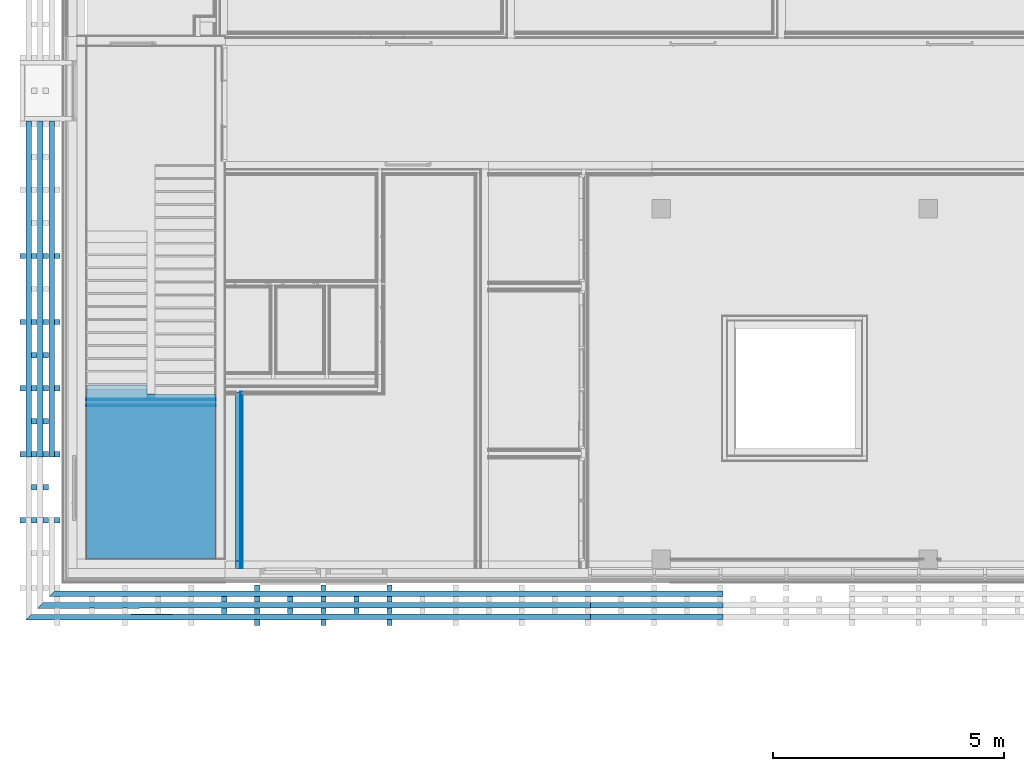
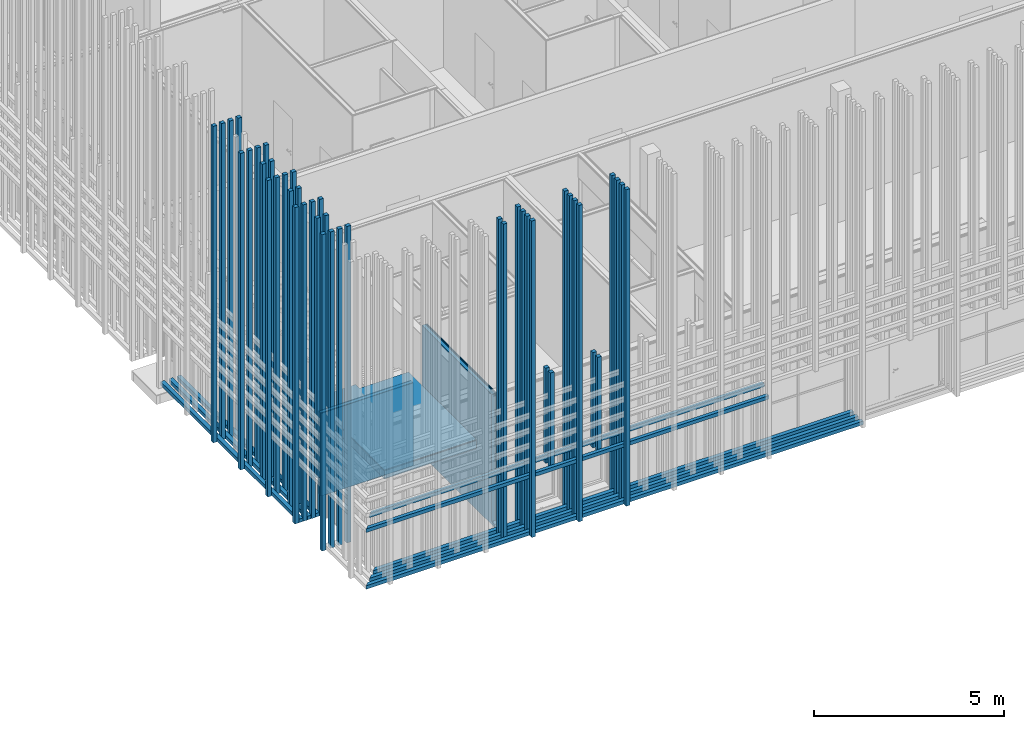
# One storey, part 148 of 260: 17 discrete accessories, 13 building element parts, 3 elements without a shape of their own.
"""IFC2X3 building model written with IfcOpenShell, lengths in millimetres."""

from ifc_helpers import new_model, entity, si_unit, converted_unit, derived_unit, money_unit, direction, frame, origin_with_axes, place, context, subcontext, project, spatial, faceted_brep, material, material_list, type_object, element, aggregate, save


model = new_model("IFC2X3")

# Units and contexts
model_context = context("Model", 3, precision=0.01, world=origin_with_axes(), true_north=direction((0.0, 1.0)))
body_context = subcontext(model_context, "Body", "Model", "MODEL_VIEW")
ifc_project = project(units=[si_unit("LENGTHUNIT", "METRE", prefix="MILLI"), si_unit("AREAUNIT", "SQUARE_METRE"), si_unit("VOLUMEUNIT", "CUBIC_METRE"), converted_unit("PLANEANGLEUNIT", "DEGREE", entity("IfcPlaneAngleMeasure", 0.0174532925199), si_unit("PLANEANGLEUNIT", "RADIAN"), dimensions=[0, 0, 0, 0, 0, 0, 0]), money_unit("EUR"), converted_unit("TIMEUNIT", "Year", entity("IfcTimeMeasure", 31556926.0), si_unit("TIMEUNIT", "SECOND"), dimensions=[0, 0, 1, 0, 0, 0, 0]), si_unit("MASSUNIT", "GRAM", prefix="KILO"), si_unit("THERMODYNAMICTEMPERATUREUNIT", "DEGREE_CELSIUS"), si_unit("LUMINOUSINTENSITYUNIT", "LUMEN"), si_unit("ENERGYUNIT", "JOULE", prefix="MEGA"), derived_unit("THERMALCONDUCTANCEUNIT", [(si_unit("POWERUNIT", "WATT"), 1), (si_unit("LENGTHUNIT", "METRE"), -1), (si_unit("THERMODYNAMICTEMPERATUREUNIT", "KELVIN"), -1)]), derived_unit("SPECIFICHEATCAPACITYUNIT", [(si_unit("ENERGYUNIT", "JOULE"), 1), (si_unit("MASSUNIT", "GRAM", prefix="KILO"), -1), (si_unit("THERMODYNAMICTEMPERATUREUNIT", "KELVIN"), -1)]), derived_unit("MASSDENSITYUNIT", [(si_unit("MASSUNIT", "GRAM", prefix="KILO"), 1), (si_unit("VOLUMEUNIT", "CUBIC_METRE"), -1)])], contexts=[model_context])

# Site, building, storey
site_placement = place(None, origin_with_axes())
site = spatial("IfcSite", under=ifc_project, at=site_placement, Name="Kolde pst 67a", CompositionType="ELEMENT")
building_placement = place(site_placement, origin_with_axes())
building = spatial("IfcBuilding", under=site, at=building_placement, Name="Riigigümnaasium", CompositionType="ELEMENT")
storey_placement = place(building_placement, origin_with_axes())
storey = spatial("IfcBuildingStorey", under=building, at=storey_placement, Name="1. korrus", CompositionType="ELEMENT", Elevation=0.0)

# Discrete accessories
ifc_material_1 = material(Name="_VÄLISVIIMISTLUS - sõrmjätkatud puitprussid 120x115mm, liitekohad vähemärgatavad, Platowood sõrmjätkatud kuusk või samaväärne; eeltöödeldud tuletõkkevõõbaga, tuletundlikkus B-s1, d0, Woodsafe Exterior WFX™ või samaväärne; kinnitused vastavalt EK osale")
ifc_material_list_1 = material_list([ifc_material_1, ifc_material_1, ifc_material_1, ifc_material_1])
discrete_accessory_type_1 = type_object("IfcDiscreteAccessoryType", Name="120 4-ne vertikaalne 870 x 115")
for number, where, z_axis, x_axis in (
    (1, (-310.003213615, 53382.2222774, 280.0), (0.0, 0.0, 1.0), (0.999999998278, -5.86859191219e-05, 0.0)),
    (2, (-310.003213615, 51952.2222774, 280.0), (0.0, 0.0, 1.0), (0.999999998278, -5.86859191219e-05, 0.0)),
    (3, (-310.003213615, 54812.2222773, 280.0), (0.0, 0.0, 1.0), (0.999999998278, -5.86859191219e-05, 0.0)),
    (4, (-310.003213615, 49092.2222774, 280.0), (0.0, 0.0, 1.0), (0.999999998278, -5.86859191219e-05, 0.0)),
    (5, (-310.003213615, 50522.2222774, 280.0), (0.0, 0.0, 1.0), (0.999999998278, -5.86859191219e-05, 0.0)),
    (6, (3927.50220181, 47693.5672375, 280.0), (0.0, 0.0, 1.0), (5.86859191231e-05, 0.999999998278, 0.0)),
    (7, (5357.50365987, 47693.5138352, 280.0), (0.0, 0.0, 1.0), (5.86859191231e-05, 0.999999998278, 0.0)),
    (8, (6787.50219554, 47693.7277058, 280.0), (0.0, 0.0, 1.0), (5.86859191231e-05, 0.999999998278, 0.0)),
):
    element("IfcDiscreteAccessory", number, at=place(storey_placement, frame(where, z_axis=z_axis, x_axis=x_axis)), inside=storey, type_object=discrete_accessory_type_1, material=ifc_material_list_1, Name="Päikesevarjestus", context=body_context, shape_type="Brep", body=[
        faceted_brep([(-133.0, -70.0, 0.0), (-13.0, -70.0, 0.0), (-13.0, -70.0, 10140.0), (-133.0, -70.0, 10140.0), (-133.0, 45.0, 0.0), (-13.0, 45.0, 0.0), (-13.0, 45.0, 10140.0), (-133.0, 45.0, 10140.0)], [[[0, 1, 2, 3]], [[0, 4, 5, 1]], [[1, 5, 6, 2]], [[3, 2, 6, 7]], [[4, 0, 3, 7]], [[5, 4, 7, 6]]]),
        faceted_brep([(-383.0, -70.0, 0.0), (-263.0, -70.0, 0.0), (-263.0, -70.0, 10140.0), (-383.0, -70.0, 10140.0), (-383.0, 45.0, 0.0), (-263.0, 45.0, 0.0), (-263.0, 45.0, 10140.0), (-383.0, 45.0, 10140.0)], [[[0, 1, 2, 3]], [[0, 4, 5, 1]], [[1, 5, 6, 2]], [[3, 2, 6, 7]], [[4, 0, 3, 7]], [[5, 4, 7, 6]]]),
        faceted_brep([(-633.0, -70.0, 0.0), (-513.0, -70.0, 0.0), (-513.0, -70.0, 10140.0), (-633.0, -70.0, 10140.0), (-633.0, 45.0, 0.0), (-513.0, 45.0, 0.0), (-513.0, 45.0, 10140.0), (-633.0, 45.0, 10140.0)], [[[0, 1, 2, 3]], [[0, 4, 5, 1]], [[1, 5, 6, 2]], [[3, 2, 6, 7]], [[4, 0, 3, 7]], [[5, 4, 7, 6]]]),
        faceted_brep([(-883.0, -70.0, 0.0), (-763.0, -70.0, 0.0), (-763.0, -70.0, 10140.0), (-883.0, -70.0, 10140.0), (-883.0, 45.0, 0.0), (-763.0, 45.0, 0.0), (-763.0, 45.0, 10140.0), (-883.0, 45.0, 10140.0)], [[[0, 1, 2, 3]], [[0, 4, 5, 1]], [[1, 5, 6, 2]], [[3, 2, 6, 7]], [[4, 0, 3, 7]], [[5, 4, 7, 6]]]),
    ])
ifc_material_list_2 = material_list([ifc_material_1, ifc_material_1, ifc_material_1])
discrete_accessory_type_2 = type_object("IfcDiscreteAccessoryType", Name="120 1+paiksekaitse 3 tk  620 x 115")
discrete_accessory_1_placement = place(storey_placement, frame((-323.013579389, 47673.7069872, 352.5), z_axis=(0.0, 0.0, 1.0), x_axis=(0.000489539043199, -0.999999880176, 0.0)))
element("IfcDiscreteAccessory", 9, at=discrete_accessory_1_placement, inside=storey, type_object=discrete_accessory_type_2, material=ifc_material_list_2, Name="Päikesevarjestus", context=body_context, shape_type="Brep", body=[
    faceted_brep([(745.0, 1345.10492664, 45.0), (743.688873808, 1345.10564544, 45.0), (743.751919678, 1460.10562815, 45.0), (745.0, 1460.10494393, 45.0), (745.0, 2775.10660027, 45.0), (744.442317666, 2775.106906, 45.0), (744.505363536, 2890.10688872, 45.0), (745.0, 2890.10661755, 45.0), (745.0, 14332.6234855, 45.0), (625.0, 14332.6234855, 45.0), (625.0, -625.308875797, 45.0), (745.0, -745.368179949, 45.0), (745.0, 1345.10492664, -70.0), (743.688873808, 1345.10564544, -70.0), (743.751919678, 1460.10562815, -70.0), (745.0, 1460.10494393, -70.0), (745.0, 2775.10660027, -70.0), (744.442317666, 2775.106906, -70.0), (744.505363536, 2890.10688872, -70.0), (745.0, 2890.10661755, -70.0), (745.0, 14332.6234855, -70.0), (625.0, 14332.6234855, -70.0), (625.0, -625.308875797, -70.0), (745.0, -745.368179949, -70.0)], [[[0, 1, 2, 3, 4, 5, 6, 7, 8, 9, 10, 11]], [[1, 0, 12, 13]], [[2, 1, 13, 14]], [[3, 2, 14, 15]], [[3, 15, 16, 4]], [[5, 4, 16, 17]], [[6, 5, 17, 18]], [[7, 6, 18, 19]], [[7, 19, 20, 8]], [[21, 9, 8, 20]], [[21, 22, 10, 9]], [[22, 23, 11, 10]], [[12, 0, 11, 23]], [[13, 12, 23, 22, 21, 20, 19, 18, 17, 16, 15, 14]]]),
    faceted_brep([(495.0, 1345.2419829, 45.0), (493.688911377, 1345.24270167, 45.0), (493.751957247, 1460.24268439, 45.0), (495.0, 1460.24200018, 45.0), (495.0, 2060.23586613, 45.0), (494.03878182, 2060.23633668, 45.0), (494.09507881, 2175.2363229, 45.0), (495.0, 2175.23587991, 45.0), (495.0, 2775.24365653, 45.0), (494.442355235, 2775.24396224, 45.0), (494.505401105, 2890.24394496, 45.0), (495.0, 2890.24367381, 45.0), (495.0, 3490.23603748, 45.0), (494.738822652, 3490.23616534, 45.0), (494.795119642, 3605.23615156, 45.0), (495.0, 3605.23605126, 45.0), (495.0, 14332.6234855, 45.0), (375.0, 14332.6234855, 45.0), (375.0, -375.185325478, 45.0), (495.0, -495.244629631, 45.0), (495.0, 630.235694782, 45.0), (493.33874162, 630.236508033, 45.0), (493.39503861, 745.236494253, 45.0), (495.0, 745.235708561, 45.0), (495.0, 1345.2419829, -70.0), (493.688911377, 1345.24270167, -70.0), (493.751957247, 1460.24268439, -70.0), (495.0, 1460.24200018, -70.0), (495.0, 2060.23586613, -70.0), (494.03878182, 2060.23633668, -70.0), (494.09507881, 2175.2363229, -70.0), (495.0, 2175.23587991, -70.0), (495.0, 2775.24365653, -70.0), (494.442355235, 2775.24396224, -70.0), (494.505401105, 2890.24394496, -70.0), (495.0, 2890.24367381, -70.0), (495.0, 3490.23603748, -70.0), (494.738822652, 3490.23616534, -70.0), (494.795119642, 3605.23615156, -70.0), (495.0, 3605.23605126, -70.0), (495.0, 14332.6234855, -70.0), (375.0, 14332.6234855, -70.0), (375.0, -375.185325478, -70.0), (495.0, -495.244629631, -70.0), (495.0, 630.235694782, -70.0), (493.33874162, 630.236508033, -70.0), (493.39503861, 745.236494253, -70.0), (495.0, 745.235708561, -70.0)], [[[0, 1, 2, 3, 4, 5, 6, 7, 8, 9, 10, 11, 12, 13, 14, 15, 16, 17, 18, 19, 20, 21, 22, 23]], [[1, 0, 24, 25]], [[2, 1, 25, 26]], [[3, 2, 26, 27]], [[3, 27, 28, 4]], [[5, 4, 28, 29]], [[6, 5, 29, 30]], [[7, 6, 30, 31]], [[32, 8, 7, 31]], [[9, 8, 32, 33]], [[10, 9, 33, 34]], [[11, 10, 34, 35]], [[11, 35, 36, 12]], [[13, 12, 36, 37]], [[14, 13, 37, 38]], [[15, 14, 38, 39]], [[15, 39, 40, 16]], [[41, 17, 16, 40]], [[41, 42, 18, 17]], [[42, 43, 19, 18]], [[44, 20, 19, 43]], [[21, 20, 44, 45]], [[22, 21, 45, 46]], [[23, 22, 46, 47]], [[24, 0, 23, 47]], [[25, 24, 47, 46, 45, 44, 43, 42, 41, 40, 39, 38, 37, 36, 35, 34, 33, 32, 31, 30, 29, 28, 27, 26]]]),
    faceted_brep([(245.0, 1345.37903916, 45.0), (243.688948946, 1345.37975791, 45.0), (243.751994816, 1460.37974063, 45.0), (245.0, 1460.37905644, 45.0), (245.0, 2060.35825091, 45.0), (244.038811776, 2060.35872144, 45.0), (244.095108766, 2175.35870767, 45.0), (245.0, 2175.35826469, 45.0), (245.0, 2775.38071278, 45.0), (244.442392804, 2775.38101848, 45.0), (244.505438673, 2890.3810012, 45.0), (245.0, 2890.38073007, 45.0), (245.0, 3490.35842225, 45.0), (244.738852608, 3490.3585501, 45.0), (244.795149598, 3605.35853632, 45.0), (245.0, 3605.35843603, 45.0), (245.0, 14332.6234855, 45.0), (125.0, 14332.6234855, 45.0), (125.0, -125.061775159, 45.0), (245.0, -245.121079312, 45.0), (245.0, 630.358079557, 45.0), (243.338771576, 630.358892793, 45.0), (243.395068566, 745.358879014, 45.0), (245.0, 745.358093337, 45.0), (245.0, 1345.37903916, -70.0), (243.688948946, 1345.37975791, -70.0), (243.751994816, 1460.37974063, -70.0), (245.0, 1460.37905644, -70.0), (245.0, 2060.35825091, -70.0), (244.038811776, 2060.35872144, -70.0), (244.095108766, 2175.35870767, -70.0), (245.0, 2175.35826469, -70.0), (245.0, 2775.38071278, -70.0), (244.442392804, 2775.38101848, -70.0), (244.505438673, 2890.3810012, -70.0), (245.0, 2890.38073007, -70.0), (245.0, 3490.35842225, -70.0), (244.738852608, 3490.3585501, -70.0), (244.795149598, 3605.35853632, -70.0), (245.0, 3605.35843603, -70.0), (245.0, 14332.6234855, -70.0), (125.0, 14332.6234855, -70.0), (125.0, -125.061775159, -70.0), (245.0, -245.121079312, -70.0), (245.0, 630.358079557, -70.0), (243.338771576, 630.358892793, -70.0), (243.395068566, 745.358879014, -70.0), (245.0, 745.358093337, -70.0)], [[[0, 1, 2, 3, 4, 5, 6, 7, 8, 9, 10, 11, 12, 13, 14, 15, 16, 17, 18, 19, 20, 21, 22, 23]], [[1, 0, 24, 25]], [[2, 1, 25, 26]], [[3, 2, 26, 27]], [[3, 27, 28, 4]], [[5, 4, 28, 29]], [[6, 5, 29, 30]], [[7, 6, 30, 31]], [[32, 8, 7, 31]], [[9, 8, 32, 33]], [[10, 9, 33, 34]], [[11, 10, 34, 35]], [[11, 35, 36, 12]], [[13, 12, 36, 37]], [[14, 13, 37, 38]], [[15, 14, 38, 39]], [[15, 39, 40, 16]], [[41, 17, 16, 40]], [[41, 42, 18, 17]], [[42, 43, 19, 18]], [[44, 20, 19, 43]], [[21, 20, 44, 45]], [[22, 21, 45, 46]], [[23, 22, 46, 47]], [[24, 0, 23, 47]], [[25, 24, 47, 46, 45, 44, 43, 42, 41, 40, 39, 38, 37, 36, 35, 34, 33, 32, 31, 30, 29, 28, 27, 26]]]),
])
discrete_accessory_2_placement = place(storey_placement, frame((-323.007391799, 57721.1129945, 352.5), z_axis=(0.0, 0.0, 1.0), x_axis=(-1.0, 6.30384565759e-07, 0.0)))
element("IfcDiscreteAccessory", 10, at=discrete_accessory_2_placement, inside=storey, type_object=discrete_accessory_type_2, material=ifc_material_list_2, Name="Päikesevarjestus", context=body_context, shape_type="Brep", body=[
    faceted_brep([(625.0, 7269.99303313, 45.0), (625.0, 0.0, 45.0), (745.0, 0.0, 45.0), (745.0, 7269.99303313, 45.0), (625.0, 7269.99303313, -70.0), (625.0, 0.0, -70.0), (745.0, 0.0, -70.0), (745.0, 7269.99303313, -70.0)], [[[0, 1, 2, 3]], [[4, 5, 1, 0]], [[5, 6, 2, 1]], [[3, 2, 6, 7]], [[4, 0, 3, 7]], [[7, 6, 5, 4]]]),
    faceted_brep([(375.0, 7269.99303313, 45.0), (375.0, 0.0, 45.0), (495.0, 0.0, 45.0), (495.0, 7269.99303313, 45.0), (375.0, 7269.99303313, -70.0), (375.0, 0.0, -70.0), (495.0, 0.0, -70.0), (495.0, 7269.99303313, -70.0)], [[[0, 1, 2, 3]], [[4, 5, 1, 0]], [[5, 6, 2, 1]], [[3, 2, 6, 7]], [[4, 0, 3, 7]], [[7, 6, 5, 4]]]),
    faceted_brep([(125.0, 7269.99303313, 45.0), (125.0, 0.0, 45.0), (245.0, 0.0, 45.0), (245.0, 7269.99303313, 45.0), (125.0, 7269.99303313, -70.0), (125.0, 0.0, -70.0), (245.0, 0.0, -70.0), (245.0, 7269.99303313, -70.0)], [[[0, 1, 2, 3]], [[4, 5, 1, 0]], [[5, 6, 2, 1]], [[3, 2, 6, 7]], [[4, 0, 3, 7]], [[7, 6, 5, 4]]]),
])
ifc_material_list_3 = material_list([ifc_material_1, ifc_material_1])
discrete_accessory_type_3 = type_object("IfcDiscreteAccessoryType", Name="1+paiksekaitse 4 tk nihkes 2 370 x 355")
discrete_accessory_3_placement = place(storey_placement, frame((-323.006615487, 47673.7129996, 2100.00014213), z_axis=(0.0, 0.0, 1.0), x_axis=(0.000305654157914, -0.999999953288, 0.0)))
element("IfcDiscreteAccessory", 11, at=discrete_accessory_3_placement, inside=storey, type_object=discrete_accessory_type_3, material=ifc_material_list_3, Name="Päikesevarjestus", context=body_context, shape_type="Brep", body=[
    faceted_brep([(495.0, 1345.32592951, 357.5), (493.447543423, 1345.32649513, 357.364177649), (493.489442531, 1460.32648749, 357.367843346), (495.0, 1460.32593714, 357.5), (495.0, 2060.31977462, 357.5), (493.665937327, 2060.32018238, 357.38328464), (493.701087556, 2175.32017701, 357.386359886), (495.0, 2175.31977999, 357.5), (495.0, 2775.32748315, 357.5), (493.93803163, 2775.32787006, 357.407089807), (493.979930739, 2890.32786243, 357.410755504), (495.0, 2890.32749078, 357.5), (495.0, 3490.31984142, 357.5), (494.103022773, 3490.32011559, 357.421524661), (494.138173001, 3605.32011021, 357.424599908), (495.0, 3605.31984679, 357.5), (495.0, 4205.32757559, 357.5), (494.428519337, 4205.32778381, 357.450001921), (494.470418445, 4320.32777618, 357.453667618), (495.0, 4320.32758323, 357.5), (495.0, 4920.31990822, 357.5), (494.540108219, 4920.32004879, 357.459764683), (494.575258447, 5035.32004342, 357.462839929), (495.0, 5035.31991359, 357.5), (495.0, 5635.32912924, 357.5), (494.919007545, 5635.32915874, 357.492914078), (494.960906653, 5750.32915111, 357.496579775), (495.0, 5750.32913687, 357.5), (495.0, 6350.31997502, 357.5), (494.977193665, 6350.31998199, 357.498004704), (495.0, 6424.9348156, 357.5), (495.0, 11472.7488069, 357.5), (375.0, 11472.7488069, 347.001360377), (375.0, -375.114708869, 347.001360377), (495.0, -495.151415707, 357.5), (495.0, 630.319707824, 357.5), (493.228852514, 630.320249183, 357.345044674), (493.264002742, 745.320243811, 357.34811992), (495.0, 745.319713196, 357.5), (495.0, 1345.32592951, 242.5), (493.447543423, 1345.32649513, 242.5), (493.489442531, 1460.32648749, 242.5), (495.0, 1460.32593714, 242.5), (495.0, 2060.31977462, 242.5), (493.665937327, 2060.32018238, 242.5), (493.701087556, 2175.32017701, 242.5), (495.0, 2175.31977999, 242.5), (495.0, 2775.32748315, 242.5), (493.93803163, 2775.32787006, 242.5), (493.979930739, 2890.32786243, 242.5), (495.0, 2890.32749078, 242.5), (495.0, 3490.31984142, 242.5), (494.103022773, 3490.32011559, 242.5), (494.138173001, 3605.32011021, 242.5), (495.0, 3605.31984679, 242.5), (495.0, 4205.32757559, 242.5), (494.428519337, 4205.32778381, 242.5), (494.470418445, 4320.32777618, 242.5), (495.0, 4320.32758323, 242.5), (495.0, 4920.31990822, 242.5), (494.540108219, 4920.32004879, 242.5), (494.575258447, 5035.32004342, 242.5), (495.0, 5035.31991359, 242.5), (495.0, 5635.32912924, 242.5), (494.919007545, 5635.32915874, 242.5), (494.960906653, 5750.32915111, 242.5), (495.0, 5750.32913687, 242.5), (495.0, 6350.31997502, 242.5), (494.977193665, 6350.31998199, 242.5), (495.0, 6424.9348156, 242.5), (495.0, 11472.7488069, 242.5), (375.0, 11472.7488069, 242.5), (375.0, -375.114708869, 242.5), (495.0, -495.151415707, 242.5), (495.0, 630.319707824, 242.5), (493.228852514, 630.320249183, 242.5), (493.264002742, 745.320243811, 242.5), (495.0, 745.319713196, 242.5)], [[[0, 1, 2, 3, 4, 5, 6, 7, 8, 9, 10, 11, 12, 13, 14, 15, 16, 17, 18, 19, 20, 21, 22, 23, 24, 25, 26, 27, 28, 29, 30, 31, 32, 33, 34, 35, 36, 37, 38]], [[1, 0, 39, 40]], [[2, 1, 40, 41]], [[3, 2, 41, 42]], [[3, 42, 43, 4]], [[5, 4, 43, 44]], [[6, 5, 44, 45]], [[7, 6, 45, 46]], [[47, 8, 7, 46]], [[9, 8, 47, 48]], [[10, 9, 48, 49]], [[11, 10, 49, 50]], [[11, 50, 51, 12]], [[13, 12, 51, 52]], [[14, 13, 52, 53]], [[15, 14, 53, 54]], [[55, 16, 15, 54]], [[17, 16, 55, 56]], [[18, 17, 56, 57]], [[19, 18, 57, 58]], [[19, 58, 59, 20]], [[21, 20, 59, 60]], [[22, 21, 60, 61]], [[23, 22, 61, 62]], [[63, 24, 23, 62]], [[25, 24, 63, 64]], [[26, 25, 64, 65]], [[27, 26, 65, 66]], [[27, 66, 67, 28]], [[29, 28, 67, 68]], [[69, 30, 29, 68]], [[30, 69, 70, 31]], [[71, 32, 31, 70]], [[71, 72, 33, 32]], [[72, 73, 34, 33]], [[74, 35, 34, 73]], [[36, 35, 74, 75]], [[37, 36, 75, 76]], [[38, 37, 76, 77]], [[39, 0, 38, 77]], [[40, 39, 77, 76, 75, 74, 73, 72, 71, 70, 69, 68, 67, 66, 65, 64, 63, 62, 61, 60, 59, 58, 57, 56, 55, 54, 53, 52, 51, 50, 49, 48, 47, 46, 45, 44, 43, 42, 41]]]),
    faceted_brep([(745.0, 1345.23484448, 117.5), (743.44752683, 1345.23541011, 117.364176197), (743.489425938, 1460.23540248, 117.367841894), (745.0, 1460.23485211, 117.5), (745.0, 2775.23639812, 117.5), (743.938015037, 2775.23678504, 117.407088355), (743.979914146, 2890.23677741, 117.410754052), (745.0, 2890.23640575, 117.5), (745.0, 4205.23649057, 117.5), (744.428502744, 4205.23669879, 117.450000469), (744.470401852, 4320.23669116, 117.453666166), (745.0, 4320.2364982, 117.5), (745.0, 5635.23804421, 117.5), (744.918990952, 5635.23807373, 117.492912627), (744.96089006, 5750.23806609, 117.496578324), (745.0, 5750.23805184, 117.5), (745.0, 11472.7488069, 117.5), (625.0, 11472.7488069, 107.001360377), (625.0, -625.191181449, 107.001360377), (745.0, -745.227888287, 117.5), (745.0, 1345.23484448, 2.5), (743.44752683, 1345.23541011, 2.5), (743.489425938, 1460.23540248, 2.5), (745.0, 1460.23485211, 2.5), (745.0, 2775.23639812, 2.5), (743.938015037, 2775.23678504, 2.5), (743.979914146, 2890.23677741, 2.5), (745.0, 2890.23640575, 2.5), (745.0, 4205.23649057, 2.5), (744.428502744, 4205.23669879, 2.5), (744.470401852, 4320.23669116, 2.5), (745.0, 4320.2364982, 2.5), (745.0, 5635.23804421, 2.5), (744.918990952, 5635.23807373, 2.5), (744.96089006, 5750.23806609, 2.5), (745.0, 5750.23805184, 2.5), (745.0, 11472.7488069, 2.5), (625.0, 11472.7488069, 2.5), (625.0, -625.191181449, 2.5), (745.0, -745.227888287, 2.5)], [[[0, 1, 2, 3, 4, 5, 6, 7, 8, 9, 10, 11, 12, 13, 14, 15, 16, 17, 18, 19]], [[1, 0, 20, 21]], [[2, 1, 21, 22]], [[3, 2, 22, 23]], [[3, 23, 24, 4]], [[5, 4, 24, 25]], [[6, 5, 25, 26]], [[7, 6, 26, 27]], [[7, 27, 28, 8]], [[9, 8, 28, 29]], [[10, 9, 29, 30]], [[11, 10, 30, 31]], [[11, 31, 32, 12]], [[13, 12, 32, 33]], [[14, 13, 33, 34]], [[15, 14, 34, 35]], [[15, 35, 36, 16]], [[37, 17, 16, 36]], [[37, 38, 18, 17]], [[38, 39, 19, 18]], [[20, 0, 19, 39]], [[21, 20, 39, 38, 37, 36, 35, 34, 33, 32, 31, 30, 29, 28, 27, 26, 25, 24, 23, 22]]]),
])
discrete_accessory_type_4 = type_object("IfcDiscreteAccessoryType", Name="1+paiksekaitse 3 370 x 115")
discrete_accessory_4_placement = place(storey_placement, frame((3284.9643617, 46713.6768307, 280.0), z_axis=(0.0, 0.0, 1.0), x_axis=(0.0, 1.0, 0.0)))
element("IfcDiscreteAccessory", 12, at=discrete_accessory_4_placement, inside=storey, type_object=discrete_accessory_type_4, material=ifc_material_list_3, Name="Päikesevarjestus", context=body_context, shape_type="Brep", body=[
    faceted_brep([(467.0, 117.5, 0.0), (347.0, 117.5, 0.0), (347.0, 117.5, 10140.0), (467.0, 117.5, 10140.0), (467.0, 2.5, 0.0), (347.0, 2.5, 0.0), (347.0, 2.5, 10140.0), (467.0, 2.5, 10140.0)], [[[0, 1, 2, 3]], [[0, 4, 5, 1]], [[1, 5, 6, 2]], [[3, 2, 6, 7]], [[4, 0, 3, 7]], [[5, 4, 7, 6]]]),
    faceted_brep([(717.0, 117.5, 0.0), (597.0, 117.5, 0.0), (597.0, 117.5, 10140.0), (717.0, 117.5, 10140.0), (717.0, 2.5, 0.0), (597.0, 2.5, 0.0), (597.0, 2.5, 10140.0), (717.0, 2.5, 10140.0)], [[[0, 1, 2, 3]], [[0, 4, 5, 1]], [[1, 5, 6, 2]], [[3, 2, 6, 7]], [[4, 0, 3, 7]], [[5, 4, 7, 6]]]),
])
for number, where, z_axis, x_axis in (
    (13, (4714.9643617, 46713.6768307, 2100.00014213), (0.0, 0.0, 1.0), (0.0, 1.0, 0.0)),
    (14, (6144.9643617, 46713.6768307, 2100.00014213), (0.0, 0.0, 1.0), (0.0, 1.0, 0.0)),
):
    element("IfcDiscreteAccessory", number, at=place(storey_placement, frame(where, z_axis=z_axis, x_axis=x_axis)), inside=storey, type_object=discrete_accessory_type_4, material=ifc_material_list_3, Name="Päikesevarjestus", context=body_context, shape_type="Brep", body=[
        faceted_brep([(467.0, 117.5, 0.0), (347.0, 117.5, 0.0), (347.0, 117.5, 3050.0), (467.0, 117.5, 3050.0), (467.0, 2.5, 0.0), (347.0, 2.5, 0.0), (347.0, 2.5, 3050.0), (467.0, 2.5, 3050.0)], [[[0, 1, 2, 3]], [[0, 4, 5, 1]], [[1, 5, 6, 2]], [[3, 2, 6, 7]], [[4, 0, 3, 7]], [[5, 4, 7, 6]]]),
        faceted_brep([(717.0, 117.5, 0.0), (597.0, 117.5, 0.0), (597.0, 117.5, 3050.0), (717.0, 117.5, 3050.0), (717.0, 2.5, 0.0), (597.0, 2.5, 0.0), (597.0, 2.5, 3050.0), (717.0, 2.5, 3050.0)], [[[0, 1, 2, 3]], [[0, 4, 5, 1]], [[1, 5, 6, 2]], [[3, 2, 6, 7]], [[4, 0, 3, 7]], [[5, 4, 7, 6]]]),
    ])
for number, where, z_axis, x_axis in (
    (15, (-1290.00746728, 52594.7586626, 280.0), (0.0, 0.0, 1.0), (1.0, 0.0, 0.0)),
    (16, (-1290.00746728, 51164.7586626, 280.0), (0.0, 0.0, 1.0), (1.0, 0.0, 0.0)),
):
    element("IfcDiscreteAccessory", number, at=place(storey_placement, frame(where, z_axis=z_axis, x_axis=x_axis)), inside=storey, type_object=discrete_accessory_type_4, material=ifc_material_list_3, Name="Päikesevarjestus", context=body_context, shape_type="Brep", body=[
        faceted_brep([(467.0, 117.5, 0.0), (347.0, 117.5, 0.0), (347.0, 117.5, 10140.0), (467.0, 117.5, 10140.0), (467.0, 2.5, 0.0), (347.0, 2.5, 0.0), (347.0, 2.5, 10140.0), (467.0, 2.5, 10140.0)], [[[0, 1, 2, 3]], [[0, 4, 5, 1]], [[1, 5, 6, 2]], [[3, 2, 6, 7]], [[4, 0, 3, 7]], [[5, 4, 7, 6]]]),
        faceted_brep([(717.0, 117.5, 0.0), (597.0, 117.5, 0.0), (597.0, 117.5, 10140.0), (717.0, 117.5, 10140.0), (717.0, 2.5, 0.0), (597.0, 2.5, 0.0), (597.0, 2.5, 10140.0), (717.0, 2.5, 10140.0)], [[[0, 1, 2, 3]], [[0, 4, 5, 1]], [[1, 5, 6, 2]], [[3, 2, 6, 7]], [[4, 0, 3, 7]], [[5, 4, 7, 6]]]),
    ])
discrete_accessory_5_placement = place(storey_placement, frame((-1290.00746728, 49734.7586626, 2100.00015619), z_axis=(0.0, 0.0, 1.0), x_axis=(1.0, 0.0, 0.0)))
element("IfcDiscreteAccessory", 17, at=discrete_accessory_5_placement, inside=storey, type_object=discrete_accessory_type_4, material=ifc_material_list_3, Name="Päikesevarjestus", context=body_context, shape_type="Brep", body=[
    faceted_brep([(467.0, 117.5, 0.0), (347.0, 117.5, 0.0), (347.0, 117.5, 8319.99984381), (467.0, 117.5, 8319.99984381), (467.0, 2.5, 0.0), (347.0, 2.5, 0.0), (347.0, 2.5, 8319.99984381), (467.0, 2.5, 8319.99984381)], [[[0, 1, 2, 3]], [[0, 4, 5, 1]], [[1, 5, 6, 2]], [[3, 2, 6, 7]], [[4, 0, 3, 7]], [[5, 4, 7, 6]]]),
    faceted_brep([(717.0, 117.5, 0.0), (597.0, 117.5, 0.0), (597.0, 117.5, 8319.99984381), (717.0, 117.5, 8319.99984381), (717.0, 2.5, 0.0), (597.0, 2.5, 0.0), (597.0, 2.5, 8319.99984381), (717.0, 2.5, 8319.99984381)], [[[0, 1, 2, 3]], [[0, 4, 5, 1]], [[1, 5, 6, 2]], [[3, 2, 6, 7]], [[4, 0, 3, 7]], [[5, 4, 7, 6]]]),
])

# Wall, building element parts
wall_type_1 = type_object("IfcWallType", Name="SS-MK-10/3_TTS sein viimistluseta 160", PredefinedType="NOTDEFINED")
wall_1_placement = place(storey_placement, frame((3039.94039842, 51710.1094488, 0.0), z_axis=(0.0, 0.0, 1.0), x_axis=(-1.0, 0.0, 0.0)))
wall_1 = element("IfcWall", 18, at=wall_1_placement, inside=storey, type_object=wall_type_1, Name="Sisesein")
ifc_material_2 = material(Name="_PLAATMATERJAL - tuletõkkekipsplaat, Knauf Red GKF või samaväärne")
building_element_part_1_placement = place(wall_1_placement, origin_with_axes())
building_element_part_1 = element("IfcBuildingElementPart", 19, at=building_element_part_1_placement, material=ifc_material_2, Name="_PLAATMATERJAL - tuletõkkekipsplaat, Knauf Red GKF või samaväärne", context=body_context, shape_type="Brep", body=[
    faceted_brep([(2799.88415135, 160.0, 0.0), (2799.88415135, 145.0, 0.0), (0.0, 145.0, 0.0), (0.0, 160.0, 0.0), (2799.88415135, 160.0, 2655.17241379), (2799.88415135, 145.0, 2655.17241379), (0.0, 145.0, 2655.17241379), (0.0, 160.0, 2655.17241379)], [[[0, 1, 2, 3]], [[0, 4, 5, 1]], [[1, 5, 6, 2]], [[3, 2, 6, 7]], [[4, 0, 3, 7]], [[5, 4, 7, 6]]]),
])
building_element_part_2_placement = place(wall_1_placement, origin_with_axes())
building_element_part_2 = element("IfcBuildingElementPart", 20, at=building_element_part_2_placement, material=ifc_material_2, Name="_PLAATMATERJAL - tuletõkkekipsplaat, Knauf Red GKF või samaväärne", context=body_context, shape_type="Brep", body=[
    faceted_brep([(2799.88415135, 145.0, 0.0), (2799.88415135, 130.0, 0.0), (0.0, 130.0, 0.0), (0.0, 145.0, 0.0), (2799.88415135, 145.0, 2655.17241379), (2799.88415135, 130.0, 2655.17241379), (0.0, 130.0, 2655.17241379), (0.0, 145.0, 2655.17241379)], [[[0, 1, 2, 3]], [[0, 4, 5, 1]], [[1, 5, 6, 2]], [[3, 2, 6, 7]], [[4, 0, 3, 7]], [[5, 4, 7, 6]]]),
])
ifc_material_3 = material(Name="_KARKASS - metallkarkass CW 100/50/06 ja UW 100/40/06, samm 600, vahel mineraalvill, helineeldetegur αw = 1.0,  ISOVER ACOUSTIC 100mm või samaväärne")
building_element_part_3_placement = place(wall_1_placement, origin_with_axes())
building_element_part_3 = element("IfcBuildingElementPart", 21, at=building_element_part_3_placement, material=ifc_material_3, Name="_KARKASS - metallkarkass CW 100/50/06 ja UW 100/40/06, samm 600, vahel mineraalvill, helineeldetegur αw = 1.0,  ISOVER ACOUSTIC 100mm või samaväärne", context=body_context, shape_type="Brep", body=[
    faceted_brep([(2799.88415135, 130.0, 0.0), (2799.88415135, 30.0, 0.0), (0.0, 30.0, 0.0), (0.0, 130.0, 0.0), (2799.88415135, 130.0, 2655.17241379), (2799.88415135, 30.0, 2655.17241379), (0.0, 30.0, 2655.17241379), (0.0, 130.0, 2655.17241379)], [[[0, 1, 2, 3]], [[0, 4, 5, 1]], [[1, 5, 6, 2]], [[3, 2, 6, 7]], [[4, 0, 3, 7]], [[5, 4, 7, 6]]]),
])
building_element_part_4_placement = place(wall_1_placement, origin_with_axes())
building_element_part_4 = element("IfcBuildingElementPart", 22, at=building_element_part_4_placement, material=ifc_material_2, Name="_PLAATMATERJAL - tuletõkkekipsplaat, Knauf Red GKF või samaväärne", context=body_context, shape_type="Brep", body=[
    faceted_brep([(2799.88415135, 30.0, 0.0), (2799.88415135, 15.0, 0.0), (0.0, 15.0, 0.0), (0.0, 30.0, 0.0), (2799.88415135, 30.0, 2655.17241379), (2799.88415135, 15.0, 2655.17241379), (0.0, 15.0, 2655.17241379), (0.0, 30.0, 2655.17241379)], [[[0, 1, 2, 3]], [[0, 4, 5, 1]], [[1, 5, 6, 2]], [[3, 2, 6, 7]], [[4, 0, 3, 7]], [[5, 4, 7, 6]]]),
])
building_element_part_5_placement = place(wall_1_placement, origin_with_axes())
building_element_part_5 = element("IfcBuildingElementPart", 23, at=building_element_part_5_placement, material=ifc_material_2, Name="_PLAATMATERJAL - tuletõkkekipsplaat, Knauf Red GKF või samaväärne", context=body_context, shape_type="Brep", body=[
    faceted_brep([(2799.88415135, 15.0, 0.0), (2799.88415135, 0.0, 0.0), (0.0, 0.0, 0.0), (0.0, 15.0, 0.0), (2799.88415135, 15.0, 2655.17241379), (2799.88415135, 0.0, 2655.17241379), (0.0, 0.0, 2655.17241379), (0.0, 15.0, 2655.17241379)], [[[0, 1, 2, 3]], [[0, 4, 5, 1]], [[1, 5, 6, 2]], [[3, 2, 6, 7]], [[4, 0, 3, 7]], [[5, 4, 7, 6]]]),
])
aggregate(wall_1, [building_element_part_1, building_element_part_2, building_element_part_3, building_element_part_4, building_element_part_5])

wall_type_2 = type_object("IfcWallType", Name="SS-MK-10/4_šahti sein+dold  160", PredefinedType="NOTDEFINED")
wall_2_placement = place(storey_placement, frame((3629.94042366, 48039.9808308, 0.0), z_axis=(0.0, 0.0, 1.0), x_axis=(0.0, 1.0, 0.0)))
wall_2 = element("IfcWall", 24, at=wall_2_placement, inside=storey, type_object=wall_type_2, Name="Varisein")
building_element_part_6_placement = place(wall_2_placement, origin_with_axes())
building_element_part_6 = element("IfcBuildingElementPart", 25, at=building_element_part_6_placement, material=ifc_material_3, Name="_KARKASS - metallkarkass CW 100/50/06 ja UW 100/40/06, samm 600, vahel mineraalvill, helineeldetegur αw = 1.0,  ISOVER ACOUSTIC 100mm või samaväärne", context=body_context, shape_type="Brep", body=[
    faceted_brep([(3820.0, 160.0, 4170.0), (3820.0, 60.0, 4170.0), (3820.0, 60.0, 0.0), (3820.0, 160.0, 0.0), (160.0, 60.0, 4170.0), (160.0, 160.0, 4170.0), (160.0, 60.0, 100.0), (0.0, 60.0, 100.0), (0.0, 60.0, 0.0), (0.0, 160.0, 0.0), (0.0, 160.0, 100.0), (160.0, 160.0, 100.0)], [[[0, 1, 2, 3]], [[4, 1, 0, 5]], [[1, 4, 6, 7, 8, 2]], [[3, 2, 8, 9]], [[5, 0, 3, 9, 10, 11]], [[4, 5, 11, 6]], [[10, 7, 6, 11]], [[8, 7, 10, 9]]]),
])
building_element_part_7_placement = place(wall_2_placement, origin_with_axes())
building_element_part_7 = element("IfcBuildingElementPart", 26, at=building_element_part_7_placement, material=ifc_material_2, Name="_PLAATMATERJAL - tuletõkkekipsplaat, Knauf Red GKF või samaväärne", context=body_context, shape_type="Brep", body=[
    faceted_brep([(3820.0, 60.0, 4170.0), (3820.0, 45.0, 4170.0), (3820.0, 45.0, 0.0), (3820.0, 60.0, 0.0), (160.0, 45.0, 4170.0), (160.0, 60.0, 4170.0), (160.0, 45.0, 100.0), (0.0, 45.0, 100.0), (0.0, 45.0, 0.0), (0.0, 60.0, 0.0), (0.0, 60.0, 100.0), (160.0, 60.0, 100.0)], [[[0, 1, 2, 3]], [[4, 1, 0, 5]], [[1, 4, 6, 7, 8, 2]], [[3, 2, 8, 9]], [[5, 0, 3, 9, 10, 11]], [[4, 5, 11, 6]], [[10, 7, 6, 11]], [[8, 7, 10, 9]]]),
])
building_element_part_8_placement = place(wall_2_placement, origin_with_axes())
building_element_part_8 = element("IfcBuildingElementPart", 27, at=building_element_part_8_placement, material=ifc_material_2, Name="_PLAATMATERJAL - tuletõkkekipsplaat, Knauf Red GKF või samaväärne", context=body_context, shape_type="Brep", body=[
    faceted_brep([(3820.0, 45.0, 4170.0), (3820.0, 30.0, 4170.0), (3820.0, 30.0, 0.0), (3820.0, 45.0, 0.0), (160.0, 30.0, 4170.0), (160.0, 45.0, 4170.0), (160.0, 30.0, 100.0), (0.0, 30.0, 100.0), (0.0, 30.0, 0.0), (0.0, 45.0, 0.0), (0.0, 45.0, 100.0), (160.0, 45.0, 100.0)], [[[0, 1, 2, 3]], [[4, 1, 0, 5]], [[1, 4, 6, 7, 8, 2]], [[3, 2, 8, 9]], [[5, 0, 3, 9, 10, 11]], [[4, 5, 11, 6]], [[10, 7, 6, 11]], [[8, 7, 10, 9]]]),
])
ifc_material_4 = material(Name="_KARKASS - eriprofiilkinnitus vastavalt sisemisele plaatviimistlusele")
building_element_part_9_placement = place(wall_2_placement, origin_with_axes())
building_element_part_9 = element("IfcBuildingElementPart", 28, at=building_element_part_9_placement, material=ifc_material_4, Name="_KARKASS - eriprofiilkinnitus vastavalt sisemisele plaatviimistlusele", context=body_context, shape_type="Brep", body=[
    faceted_brep([(3820.0, 30.0, 4170.0), (3820.0, 20.0, 4170.0), (3820.0, 20.0, 0.0), (3820.0, 30.0, 0.0), (160.0, 20.0, 4170.0), (160.0, 30.0, 4170.0), (160.0, 20.0, 100.0), (0.0, 20.0, 100.0), (0.0, 20.0, 0.0), (0.0, 30.0, 0.0), (0.0, 30.0, 100.0), (160.0, 30.0, 100.0)], [[[0, 1, 2, 3]], [[4, 1, 0, 5]], [[1, 4, 6, 7, 8, 2]], [[3, 2, 8, 9]], [[5, 0, 3, 9, 10, 11]], [[4, 5, 11, 6]], [[10, 7, 6, 11]], [[8, 7, 10, 9]]]),
])
ifc_material_5 = material(Name="_VIIMISTLUSKIHT - Dold plaat vastavalt SA osale")
building_element_part_10_placement = place(wall_2_placement, origin_with_axes())
building_element_part_10 = element("IfcBuildingElementPart", 29, at=building_element_part_10_placement, material=ifc_material_5, Name="_VIIMISTLUSKIHT - Dold plaat vastavalt SA osale", context=body_context, shape_type="Brep", body=[
    faceted_brep([(3820.0, 20.0, 4170.0), (3820.0, 0.0, 4170.0), (3820.0, 0.0, 0.0), (3820.0, 20.0, 0.0), (160.0, 0.0, 4170.0), (160.0, 20.0, 4170.0), (160.0, 0.0, 100.0), (0.0, 0.0, 100.0), (0.0, 0.0, 0.0), (0.0, 20.0, 0.0), (0.0, 20.0, 100.0), (160.0, 20.0, 100.0)], [[[0, 1, 2, 3]], [[4, 1, 0, 5]], [[1, 4, 6, 7, 8, 2]], [[3, 2, 8, 9]], [[5, 0, 3, 9, 10, 11]], [[4, 5, 11, 6]], [[10, 7, 6, 11]], [[8, 7, 10, 9]]]),
])
aggregate(wall_2, [building_element_part_6, building_element_part_7, building_element_part_8, building_element_part_9, building_element_part_10])

# Slab, building element parts
slab_type = type_object("IfcSlabType", Name="VL-RB-25/1_+puitkilp trepikodades 290", PredefinedType="NOTDEFINED")
slab_placement = place(storey_placement, frame((240.056246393, 51731.3772168, 2855.0), z_axis=(0.0, 0.0, 1.0), x_axis=(1.0, 0.0, 0.0)))
slab = element("IfcSlab", 30, at=slab_placement, inside=storey, type_object=slab_type, Name="TR4 made", PredefinedType="NOTDEFINED")
ifc_material_6 = material(Name="_VIIMISTLUSKIHT - viimistlus vastavalt SA osale")
building_element_part_11_placement = place(slab_placement, origin_with_axes())
building_element_part_11 = element("IfcBuildingElementPart", 31, at=building_element_part_11_placement, material=ifc_material_6, Name="_VIIMISTLUSKIHT - viimistlus vastavalt SA osale", context=body_context, shape_type="Brep", body=[
    faceted_brep([(1310.00012441, 278.769176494, 0.0), (0.0, 278.769176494, 0.0), (0.000112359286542, -3491.37926894, 0.0), (2799.88415203, -3491.37926894, 0.0), (2799.88415203, 78.3393446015, 0.0), (1310.00012441, 78.3393446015, 0.0), (-4.0294878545e-08, 267.850069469, -30.0), (1310.00012437, 267.850069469, -30.0), (0.000112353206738, -3491.37926898, -30.0), (2799.88415205, -3491.37926898, -30.0), (2799.88415205, 78.3393446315, -30.0), (1310.00012437, 78.3393446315, -30.0)], [[[0, 1, 2, 3, 4, 5]], [[6, 1, 0, 7]], [[2, 1, 6, 8]], [[9, 3, 2, 8]], [[10, 4, 3, 9]], [[11, 5, 4, 10]], [[7, 0, 5, 11]], [[9, 8, 6, 7, 11, 10]]]),
])
ifc_material_7 = material(Name="_KANDETARIND - monteeritav raudbetoon vastavalt EK osale")
building_element_part_12_placement = place(slab_placement, origin_with_axes())
building_element_part_12 = element("IfcBuildingElementPart", 32, at=building_element_part_12_placement, material=ifc_material_7, Name="_KANDETARIND - monteeritav raudbetoon vastavalt EK osale", context=body_context, shape_type="Brep", body=[
    faceted_brep([(1310.00011189, 78.3393448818, -280.0), (1310.00011189, 78.3393446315, -30.0), (2799.88415205, 78.3393446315, -30.0), (2799.8841522, 78.3393448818, -280.0), (1310.00011189, -141.230823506, -30.0), (1310.00011189, 8.76917649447, -280.0), (1310.00011189, 8.76917649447, -150.0), (1310.00011189, -141.230823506, -150.0), (10.0001118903, -141.230823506, -30.0), (10.0001118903, 267.850069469, -30.0), (-4.0294878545e-08, 267.850069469, -30.0), (0.000112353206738, -3491.37926898, -30.0), (2799.88415205, -3491.37926898, -30.0), (2799.8841522, -3491.37926932, -280.0), (0.00011230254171, -3491.37926932, -280.0), (-3.76084718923e-07, 176.857510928, -280.0), (10.0001118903, 176.857510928, -280.0), (10.0001118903, 8.76917649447, -280.0), (10.0001118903, 8.76917649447, -150.0), (10.0001118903, -141.230823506, -150.0)], [[[0, 1, 2, 3]], [[4, 1, 0, 5, 6, 7]], [[8, 9, 10, 11, 12, 2, 1, 4]], [[3, 2, 12, 13]], [[5, 0, 3, 13, 14, 15, 16, 17]], [[5, 17, 18, 6]], [[6, 18, 19, 7]], [[8, 4, 7, 19]], [[16, 9, 8, 19, 18, 17]], [[9, 16, 15, 10]], [[14, 11, 10, 15]], [[13, 12, 11, 14]]]),
])
building_element_part_13_placement = place(slab_placement, origin_with_axes())
building_element_part_13 = element("IfcBuildingElementPart", 33, at=building_element_part_13_placement, material=ifc_material_6, Name="_VIIMISTLUSKIHT - viimistlus vastavalt SA osale", context=body_context, shape_type="Brep", body=[
    faceted_brep([(-3.89516419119e-07, 173.217808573, -290.000000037), (-3.76084718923e-07, 176.857510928, -280.0), (1310.00012401, 176.857510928, -280.0), (1310.000124, 173.217808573, -290.000000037), (0.000112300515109, -3491.37926933, -290.000000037), (0.00011230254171, -3491.37926932, -280.0), (2799.8841522, -3491.37926932, -280.0), (2799.8841522, 78.3393448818, -280.0), (1310.00012401, 78.3393448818, -280.0), (1310.000124, 78.3393448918, -290.000000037), (2799.88415221, -3491.37926933, -290.000000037), (2799.88415221, 78.3393448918, -290.000000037)], [[[0, 1, 2, 3]], [[4, 5, 1, 0]], [[2, 1, 5, 6, 7, 8]], [[3, 2, 8, 9]], [[10, 4, 0, 3, 9, 11]], [[10, 6, 5, 4]], [[11, 7, 6, 10]], [[9, 8, 7, 11]]]),
])
aggregate(slab, [building_element_part_11, building_element_part_12, building_element_part_13])

save(model, "model.ifc")
